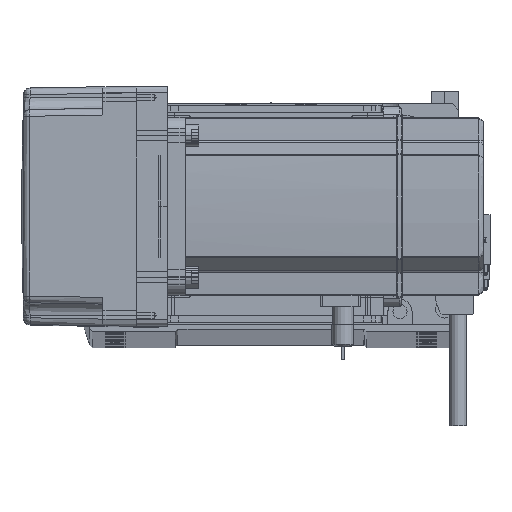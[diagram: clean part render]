
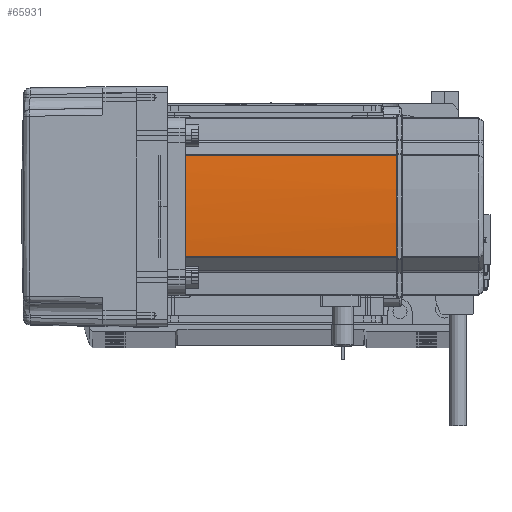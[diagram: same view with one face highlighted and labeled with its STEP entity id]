
A CAD part, top view. The second image highlights one B-rep face of the part: STEP entity #65931.
In plain terms, the highlighted cylindrical face has radius 270 mm (diameter 540 mm), a partial arc.
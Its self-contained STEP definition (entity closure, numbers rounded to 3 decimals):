
#761 = CARTESIAN_POINT ( 'NONE',  ( -230., 0., 134. ) ) ;
#3361 = LINE ( 'NONE', #10548, #12812 ) ;
#5201 = CARTESIAN_POINT ( 'NONE',  ( 40., 0.042, 134. ) ) ;
#5769 = DIRECTION ( 'NONE',  ( 0., 0., -1. ) ) ;
#6538 = CARTESIAN_POINT ( 'NONE',  ( 39.042, -22.724, 58. ) ) ;
#7072 = CARTESIAN_POINT ( 'NONE',  ( 39.042, -22.724, 39. ) ) ;
#7638 = CIRCLE ( 'NONE', #26744, 270. ) ;
#9553 = ORIENTED_EDGE ( 'NONE', *, *, #24882, .T. ) ;
#10376 = EDGE_LOOP ( 'NONE', ( #9553, #41642, #34077, #65055, #20813, #57810 ) ) ;
#10548 = CARTESIAN_POINT ( 'NONE',  ( 39.042, 22.724, 58. ) ) ;
#10880 = CARTESIAN_POINT ( 'NONE',  ( 40., -0.127, 134. ) ) ;
#12812 = VECTOR ( 'NONE', #16056, 1000. ) ;
#14920 = CARTESIAN_POINT ( 'NONE',  ( 39.042, 22.724, 134. ) ) ;
#16056 = DIRECTION ( 'NONE',  ( 0., 0., 1. ) ) ;
#19038 = VERTEX_POINT ( 'NONE', #10880 ) ;
#20192 = CARTESIAN_POINT ( 'NONE',  ( 39.042, 22.724, 39. ) ) ;
#20813 = ORIENTED_EDGE ( 'NONE', *, *, #51773, .F. ) ;
#21489 = CARTESIAN_POINT ( 'NONE',  ( 40., -0.042, 134. ) ) ;
#21552 = DIRECTION ( 'NONE',  ( -1., 0., 0. ) ) ;
#24487 = DIRECTION ( 'NONE',  ( 0., 0., -1. ) ) ;
#24882 = EDGE_CURVE ( 'NONE', #46205, #65799, #51534, .T. ) ;
#25390 = EDGE_CURVE ( 'NONE', #66078, #65799, #48152, .T. ) ;
#26744 = AXIS2_PLACEMENT_3D ( 'NONE', #761, #5769, #38886 ) ;
#27419 = CARTESIAN_POINT ( 'NONE',  ( 40., 0.127, 134. ) ) ;
#27791 = AXIS2_PLACEMENT_3D ( 'NONE', #70282, #54100, #21552 ) ;
#29483 = CIRCLE ( 'NONE', #57837, 270. ) ;
#33561 = CARTESIAN_POINT ( 'NONE',  ( 39.042, -22.724, 134. ) ) ;
#34077 = ORIENTED_EDGE ( 'NONE', *, *, #44982, .T. ) ;
#35155 = CARTESIAN_POINT ( 'NONE',  ( -230., 0., 58. ) ) ;
#35531 = B_SPLINE_CURVE_WITH_KNOTS ( 'NONE', 3,
 ( #38105, #21489, #5201, #27419 ),
 .UNSPECIFIED., .F., .F.,
 ( 4, 4 ),
 ( 0., 1. ),
 .UNSPECIFIED. ) ;
#37066 = VECTOR ( 'NONE', #66274, 1000. ) ;
#38105 = CARTESIAN_POINT ( 'NONE',  ( 40., -0.127, 134. ) ) ;
#38886 = DIRECTION ( 'NONE',  ( -1., 0., 0. ) ) ;
#39453 = VERTEX_POINT ( 'NONE', #14920 ) ;
#41642 = ORIENTED_EDGE ( 'NONE', *, *, #25390, .F. ) ;
#44982 = EDGE_CURVE ( 'NONE', #66078, #39453, #3361, .T. ) ;
#45013 = DIRECTION ( 'NONE',  ( -1., 0., 0. ) ) ;
#45880 = DIRECTION ( 'NONE',  ( -1., 0., 0. ) ) ;
#46205 = VERTEX_POINT ( 'NONE', #33561 ) ;
#47836 = EDGE_CURVE ( 'NONE', #39453, #50376, #29483, .T. ) ;
#48152 = CIRCLE ( 'NONE', #27791, 270. ) ;
#50376 = VERTEX_POINT ( 'NONE', #57734 ) ;
#50723 = DIRECTION ( 'NONE',  ( 0., 0., -1. ) ) ;
#50956 = CARTESIAN_POINT ( 'NONE',  ( -230., 0., 134. ) ) ;
#51534 = LINE ( 'NONE', #6538, #37066 ) ;
#51773 = EDGE_CURVE ( 'NONE', #19038, #50376, #35531, .T. ) ;
#53540 = EDGE_CURVE ( 'NONE', #19038, #46205, #7638, .T. ) ;
#54100 = DIRECTION ( 'NONE',  ( 0., 0., -1. ) ) ;
#55551 = CYLINDRICAL_SURFACE ( 'NONE', #68784, 270. ) ;
#56445 = FACE_OUTER_BOUND ( 'NONE', #10376, .T. ) ;
#57734 = CARTESIAN_POINT ( 'NONE',  ( 40., 0.127, 134. ) ) ;
#57810 = ORIENTED_EDGE ( 'NONE', *, *, #53540, .T. ) ;
#57837 = AXIS2_PLACEMENT_3D ( 'NONE', #50956, #50723, #45013 ) ;
#65055 = ORIENTED_EDGE ( 'NONE', *, *, #47836, .T. ) ;
#65799 = VERTEX_POINT ( 'NONE', #7072 ) ;
#65931 = ADVANCED_FACE ( 'NONE', ( #56445 ), #55551, .T. ) ;
#66078 = VERTEX_POINT ( 'NONE', #20192 ) ;
#66274 = DIRECTION ( 'NONE',  ( 0., 0., -1. ) ) ;
#68784 = AXIS2_PLACEMENT_3D ( 'NONE', #35155, #24487, #45880 ) ;
#70282 = CARTESIAN_POINT ( 'NONE',  ( -230., 0., 39. ) ) ;
